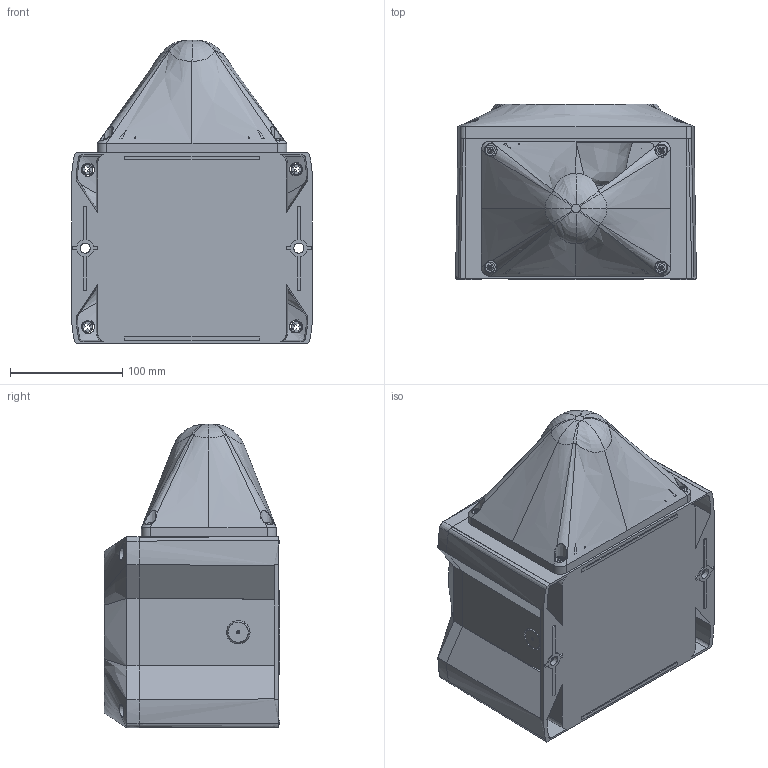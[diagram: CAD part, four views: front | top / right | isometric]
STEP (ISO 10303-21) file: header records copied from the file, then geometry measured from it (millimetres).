
FILE_DESCRIPTION (( 'STEP AP214' ), '1' );
FILE_NAME ('PAX10_30305-100.STEP', '2012-01-10T10:20:47', ( ' ' ), ( ' ' ), 'SwSTEP 2.0', 'SolidWorks 2011', '' );
FILE_SCHEMA (( 'AUTOMOTIVE_DESIGN' ));
Length unit declared in the file: millimetre
Products named in the file (1): PAX10_30305-100
Bounding box: 214.34 x 156.2 x 270.05 mm (x, y, z)
Surface area: 295605.5 mm2 (no closed solid volume)
Topology: 0 solids, 35 shells, 348 faces, 1382 edges, 1056 vertices
Faces by surface type: plane 175, bspline 75, cone 69, cylinder 18, torus 11
Full cylindrical faces by diameter (mm): 9 x2
Entity records: 27313 total; most frequent: CARTESIAN_POINT 13345, ORIENTED_EDGE 1996, DIRECTION 1702, EDGE_CURVE 1339, VERTEX_POINT 1038, VECTOR 586, LINE 586, AXIS2_PLACEMENT_3D 558
